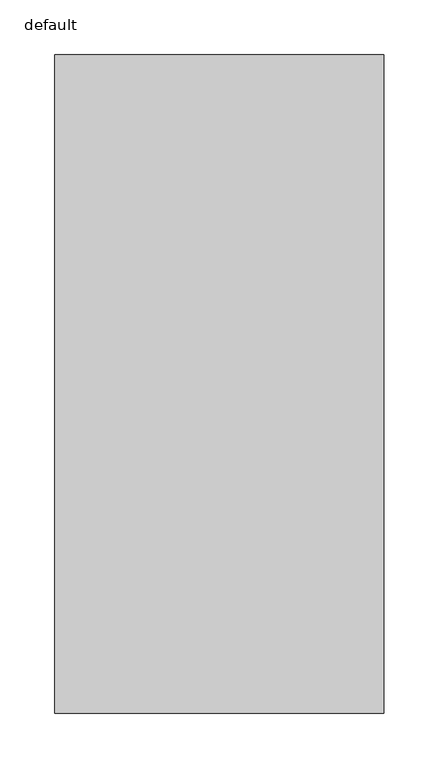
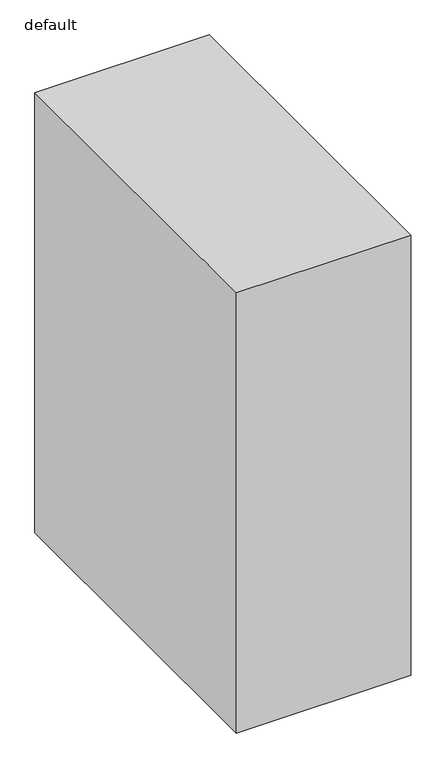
"""IFC4 building model written with IfcOpenShell, lengths in millimetres: furniture geometry, Fu_кухонный напольный модуль_LEG : default."""

from ifc_helpers import new_model, si_unit, origin, origin_with_axes, place, context, project, spatial, polyline, outline, extrude, source, transform, mapped, element, save


def default_f6d1d0e9(model_context):
    return source(origin(), model_context, "Body", "SweptSolid", [
        extrude(outline(polyline([(300.0, 0.0), (300.0, -600.0), (0.0, -600.0), (0.0, 0.0), (300.0, 0.0)])), origin_with_axes(), (0.0, 0.0, 1.0), 800.0),
    ])


if __name__ == "__main__":
    model = new_model("IFC4")
    model_context = context("Model", 3, world=origin())
    ifc_project = project(units=[si_unit("LENGTHUNIT", "METRE", prefix="MILLI")], contexts=[model_context])
    site = spatial("IfcSite", under=ifc_project)
    building = spatial("IfcBuilding", under=site)
    placement = place(None, origin())
    default_shape = default_f6d1d0e9(model_context)
    element("IfcFurniture", 1, ObjectType="Fu_кухонный напольный модуль_LEG : default", at=placement, inside=building, context=model_context, shape_type="MappedRepresentation", body=[
        mapped(default_shape, transform((0.0, 0.0, 0.0), x_axis=(1.0, 0.0, 0.0), y_axis=(0.0, 1.0, 0.0), z_axis=(0.0, 0.0, 1.0))),
    ])
    save(model, "model.ifc")
